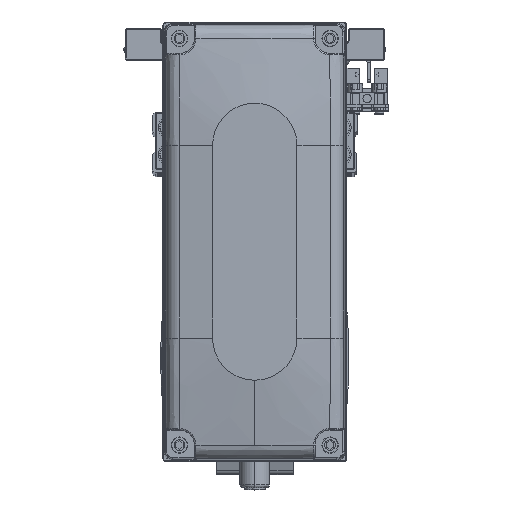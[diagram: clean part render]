
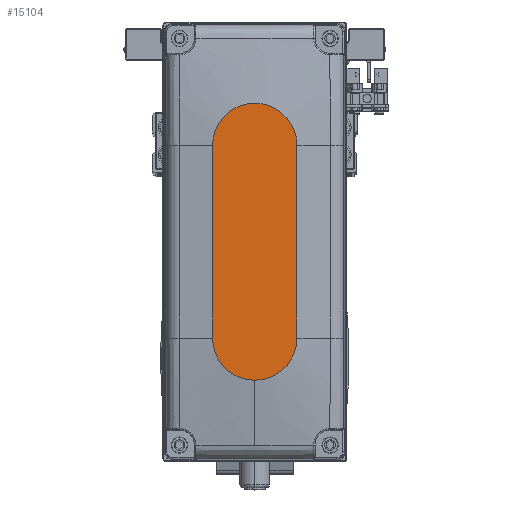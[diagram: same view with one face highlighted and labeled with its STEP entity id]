
A CAD part, top view. The second image highlights one B-rep face of the part: STEP entity #15104.
In plain terms, the highlighted planar face has unit normal (0, 0, 1).
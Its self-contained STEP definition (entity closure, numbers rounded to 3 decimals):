
#1838 = CARTESIAN_POINT ( 'NONE',  ( 0., 0., 35. ) ) ;
#2770 = ORIENTED_EDGE ( 'NONE', *, *, #16711, .T. ) ;
#4420 = CARTESIAN_POINT ( 'NONE',  ( -32., -14., 35. ) ) ;
#6587 = VERTEX_POINT ( 'NONE', #39419 ) ;
#7026 = DIRECTION ( 'NONE',  ( 0., 0., 1. ) ) ;
#7757 = LINE ( 'NONE', #22194, #29554 ) ;
#8150 = VERTEX_POINT ( 'NONE', #39840 ) ;
#8682 = LINE ( 'NONE', #23118, #10698 ) ;
#9845 = EDGE_CURVE ( 'NONE', #6587, #34164, #45997, .T. ) ;
#10698 = VECTOR ( 'NONE', #37539, 1000. ) ;
#10781 = DIRECTION ( 'NONE',  ( 0., 0., 1. ) ) ;
#12659 = CARTESIAN_POINT ( 'NONE',  ( 46., 0., 35. ) ) ;
#13732 = CIRCLE ( 'NONE', #40193, 14. ) ;
#14155 = EDGE_CURVE ( 'NONE', #19616, #36744, #35696, .T. ) ;
#15104 = ADVANCED_FACE ( 'NONE', ( #19815 ), #34250, .T. ) ;
#15307 = AXIS2_PLACEMENT_3D ( 'NONE', #39436, #7026, #21460 ) ;
#16273 = DIRECTION ( 'NONE',  ( 0., 0., 1. ) ) ;
#16455 = CARTESIAN_POINT ( 'NONE',  ( -32., 0., 35. ) ) ;
#16711 = EDGE_CURVE ( 'NONE', #34164, #19616, #7757, .T. ) ;
#16822 = EDGE_CURVE ( 'NONE', #8150, #6587, #8682, .T. ) ;
#17074 = EDGE_CURVE ( 'NONE', #36744, #8150, #13732, .T. ) ;
#19616 = VERTEX_POINT ( 'NONE', #41823 ) ;
#19815 = FACE_OUTER_BOUND ( 'NONE', #29926, .T. ) ;
#21460 = DIRECTION ( 'NONE',  ( 1., 0., 0. ) ) ;
#22194 = CARTESIAN_POINT ( 'NONE',  ( -32., -14., 35. ) ) ;
#23118 = CARTESIAN_POINT ( 'NONE',  ( -32., 14., 35. ) ) ;
#23990 = ORIENTED_EDGE ( 'NONE', *, *, #9845, .T. ) ;
#25209 = DIRECTION ( 'NONE',  ( 1., 0., 0. ) ) ;
#25597 = AXIS2_PLACEMENT_3D ( 'NONE', #16455, #30885, #45334 ) ;
#26273 = AXIS2_PLACEMENT_3D ( 'NONE', #1838, #16273, #30691 ) ;
#28497 = ORIENTED_EDGE ( 'NONE', *, *, #14155, .T. ) ;
#29554 = VECTOR ( 'NONE', #36614, 1000. ) ;
#29926 = EDGE_LOOP ( 'NONE', ( #39404, #23990, #2770, #28497, #35568 ) ) ;
#30691 = DIRECTION ( 'NONE',  ( 1., 0., 0. ) ) ;
#30885 = DIRECTION ( 'NONE',  ( 0., 0., 1. ) ) ;
#34164 = VERTEX_POINT ( 'NONE', #4420 ) ;
#34250 = PLANE ( 'NONE',  #26273 ) ;
#35568 = ORIENTED_EDGE ( 'NONE', *, *, #17074, .T. ) ;
#35696 = CIRCLE ( 'NONE', #15307, 14. ) ;
#36614 = DIRECTION ( 'NONE',  ( 1., 0., 0. ) ) ;
#36744 = VERTEX_POINT ( 'NONE', #12659 ) ;
#37539 = DIRECTION ( 'NONE',  ( -1., 0., 0. ) ) ;
#39404 = ORIENTED_EDGE ( 'NONE', *, *, #16822, .T. ) ;
#39419 = CARTESIAN_POINT ( 'NONE',  ( -32., 14., 35. ) ) ;
#39436 = CARTESIAN_POINT ( 'NONE',  ( 32., 0., 35. ) ) ;
#39840 = CARTESIAN_POINT ( 'NONE',  ( 32., 14., 35. ) ) ;
#40193 = AXIS2_PLACEMENT_3D ( 'NONE', #43189, #10781, #25209 ) ;
#41823 = CARTESIAN_POINT ( 'NONE',  ( 32., -14., 35. ) ) ;
#43189 = CARTESIAN_POINT ( 'NONE',  ( 32., 0., 35. ) ) ;
#45334 = DIRECTION ( 'NONE',  ( 1., 0., 0. ) ) ;
#45997 = CIRCLE ( 'NONE', #25597, 14. ) ;
